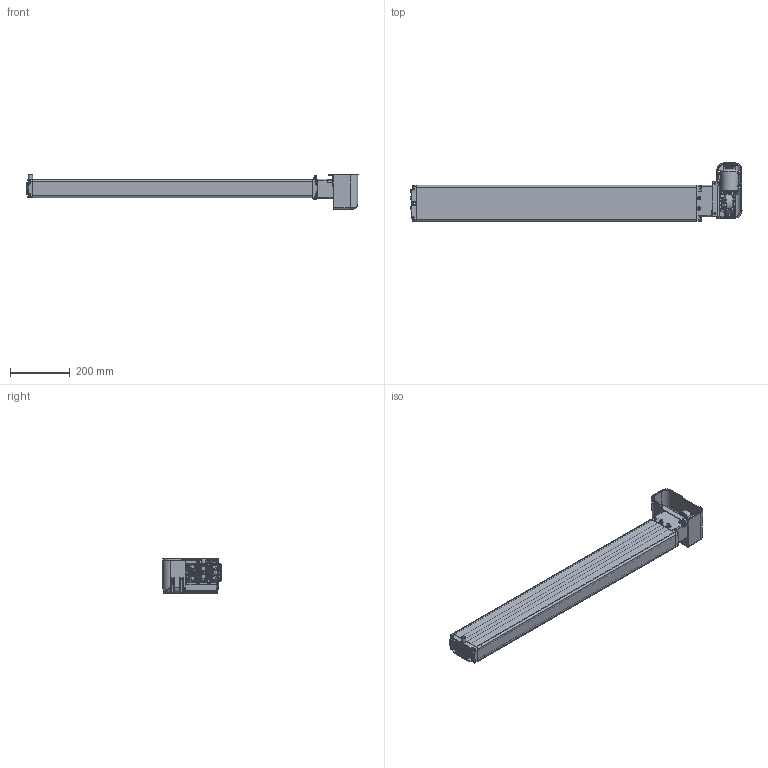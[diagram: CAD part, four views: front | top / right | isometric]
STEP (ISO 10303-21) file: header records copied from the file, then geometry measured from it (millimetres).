
FILE_DESCRIPTION(/* description */ ('Unknown'),/* implementation_level */ '2;1');
FILE_NAME(/* name */ '3X2.20038 Pumpe PB 5870 W mit Antrieb',/* time_stamp */ '2016-10-21T16:31:10+02:00',/* author */ ('Unknown'),/* organization */ ('Unknown'),/* preprocessor_version */ 'ST-DEVELOPER v16.7',/* originating_system */ 'DEX',/* authorisation */ $);
FILE_SCHEMA (('AUTOMOTIVE_DESIGN {1 0 10303 214 3 1 1}'));
Products named in the file (32): 102.20038; 115.00039; 125.00045; 115.00008; 142.00021; 125.00021; 142.00013; 142.00110; 125.00149; 115.00140; 126.00006; 122.00040; 119.00040; 126.00005; 127.00201; 127.00200; 127.00023; 124.00090; Getriebe; Ring; Schraube; Stator; Abdeckplatte; Antriebswelle; 128.00051; 123.00031; 142.00018; 142.00019; 142.00025; 142.00131; 123.00029; 142.00057
Assembly tree (47 placements, depth 3):
  102.20038
    115.00039  x5
      125.00045
      115.00008
      142.00021
      125.00021
    142.00013  x8
    142.00110
    125.00149
    115.00140
      126.00006
      122.00040
    119.00040
    126.00005
    127.00201
      127.00200
      127.00023
    124.00090
      Getriebe
      Ring
      Schraube
      Stator
      Abdeckplatte
      Antriebswelle
    128.00051
    123.00031
    142.00018  x2
    142.00019  x2
    142.00025  x2
    142.00131  x3
    123.00029
    142.00057
Bounding box: 1112.42 x 196.04 x 115.45 mm (x, y, z)
Volume: 1626116.6 mm3; surface area: 1091808.3 mm2
Topology: 50 solids, 52 shells, 4821 faces, 12210 edges, 7401 vertices
Faces by surface type: bspline 1367, plane 1316, cylinder 1269, cone 501, torus 268, sphere 100
Full cylindrical faces by diameter (mm): 2.5 x4, 3.2 x4, 3.5 x5, 3.9 x5, 4.1 x5, 4.2 x7, 4.4 x5, 4.5 x1, 4.917 x2, 5 x8, 5.5 x5, 6 x6, 6.4 x2, 6.8 x5, 6.917 x10, 7 x1, 8 x12, 8.5 x6, 9 x2, 9.5 x1, 9.8 x8, 10 x8, 10.3 x1, 10.32 x1, 10.4 x1, 11 x5, 14 x2, 14.4 x5, 15 x1, 15.8 x1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
Entity records: 202744 total; most frequent: CARTESIAN_POINT 105890, ORIENTED_EDGE 19228, DIRECTION 14239, EDGE_CURVE 9614, VERTEX_POINT 6195, AXIS2_PLACEMENT_3D 5608, FACE_BOUND 4601, EDGE_LOOP 4596
